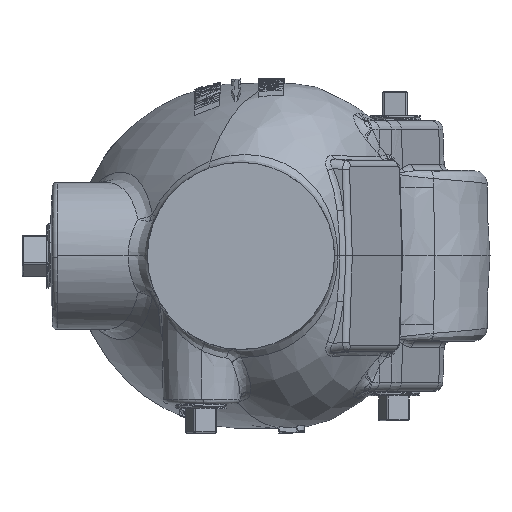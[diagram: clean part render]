
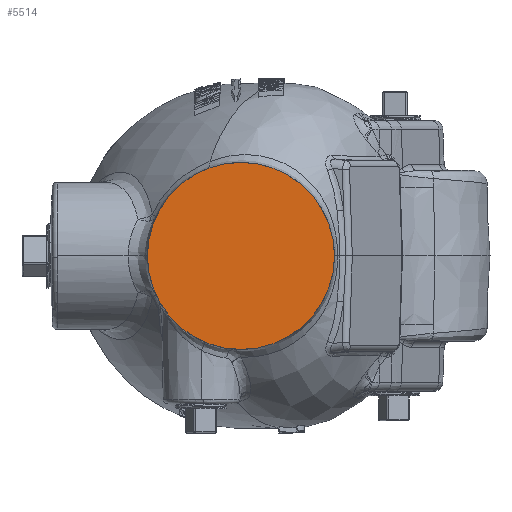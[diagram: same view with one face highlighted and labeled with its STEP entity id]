
A CAD part, left-side view. The second image highlights one B-rep face of the part: STEP entity #5514.
In plain terms, the highlighted planar face has unit normal (-1, 0, 0).
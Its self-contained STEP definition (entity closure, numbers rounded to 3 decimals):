
#195 = CARTESIAN_POINT ( 'NONE',  ( -85.48, 0., 0. ) ) ;
#234 = VERTEX_POINT ( 'NONE', #18835 ) ;
#4673 = AXIS2_PLACEMENT_3D ( 'NONE', #6088, #28469, #25392 ) ;
#5514 = ADVANCED_FACE ( 'NONE', ( #16776 ), #22417, .T. ) ;
#6088 = CARTESIAN_POINT ( 'NONE',  ( -85.48, 0., 0. ) ) ;
#10108 = DIRECTION ( 'NONE',  ( 0., -1., 0. ) ) ;
#15148 = CIRCLE ( 'NONE', #35231, 30.15 ) ;
#15969 = DIRECTION ( 'NONE',  ( 0., 1., 0. ) ) ;
#16776 = FACE_OUTER_BOUND ( 'NONE', #17112, .T. ) ;
#17112 = EDGE_LOOP ( 'NONE', ( #22504, #39130 ) ) ;
#18337 = CARTESIAN_POINT ( 'NONE',  ( -85.48, 30.15, 0. ) ) ;
#18835 = CARTESIAN_POINT ( 'NONE',  ( -85.48, -30.15, 0. ) ) ;
#22417 = PLANE ( 'NONE',  #23177 ) ;
#22504 = ORIENTED_EDGE ( 'NONE', *, *, #36418, .T. ) ;
#22524 = DIRECTION ( 'NONE',  ( -1., 0., 0. ) ) ;
#22707 = CARTESIAN_POINT ( 'NONE',  ( -85.48, 0., 0. ) ) ;
#23177 = AXIS2_PLACEMENT_3D ( 'NONE', #22707, #38394, #15969 ) ;
#25392 = DIRECTION ( 'NONE',  ( 0., -1., 0. ) ) ;
#28469 = DIRECTION ( 'NONE',  ( -1., 0., 0. ) ) ;
#33553 = EDGE_CURVE ( 'NONE', #234, #37004, #39290, .T. ) ;
#35231 = AXIS2_PLACEMENT_3D ( 'NONE', #195, #22524, #10108 ) ;
#36418 = EDGE_CURVE ( 'NONE', #37004, #234, #15148, .T. ) ;
#37004 = VERTEX_POINT ( 'NONE', #18337 ) ;
#38394 = DIRECTION ( 'NONE',  ( -1., 0., 0. ) ) ;
#39130 = ORIENTED_EDGE ( 'NONE', *, *, #33553, .T. ) ;
#39290 = CIRCLE ( 'NONE', #4673, 30.15 ) ;
